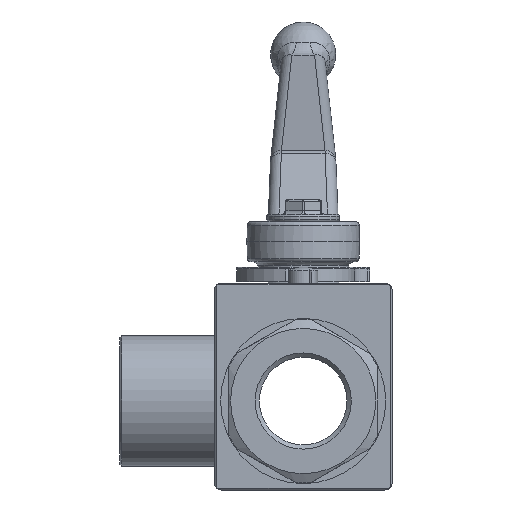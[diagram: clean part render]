
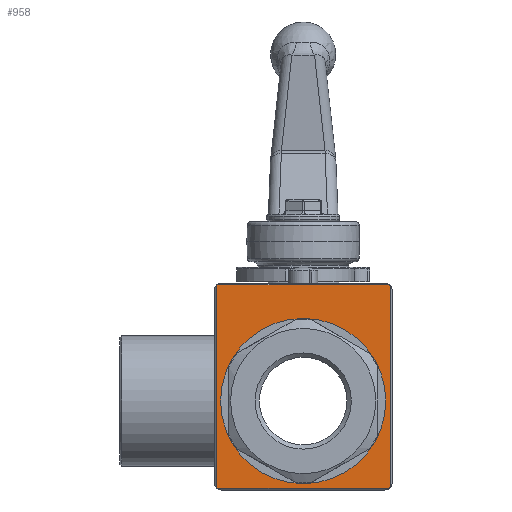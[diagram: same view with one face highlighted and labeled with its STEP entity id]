
A CAD part, front view. The second image highlights one B-rep face of the part: STEP entity #958.
In plain terms, the highlighted planar face has unit normal (0, -1, 0).
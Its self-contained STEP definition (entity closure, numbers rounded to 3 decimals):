
#958 = ADVANCED_FACE( '', ( #2012, #2013 ), #2014, .T. );
#2012 = FACE_OUTER_BOUND( '', #3770, .T. );
#2013 = FACE_BOUND( '', #3771, .T. );
#2014 = PLANE( '', #3772 );
#3770 = EDGE_LOOP( '', ( #6279, #6280, #6281, #6282, #6283, #6284, #6285, #6286 ) );
#3771 = EDGE_LOOP( '', ( #6287 ) );
#3772 = AXIS2_PLACEMENT_3D( '', #6288, #6289, #6290 );
#6279 = ORIENTED_EDGE( '', *, *, #8713, .T. );
#6280 = ORIENTED_EDGE( '', *, *, #7988, .T. );
#6281 = ORIENTED_EDGE( '', *, *, #8714, .T. );
#6282 = ORIENTED_EDGE( '', *, *, #8715, .T. );
#6283 = ORIENTED_EDGE( '', *, *, #8716, .T. );
#6284 = ORIENTED_EDGE( '', *, *, #8717, .T. );
#6285 = ORIENTED_EDGE( '', *, *, #8718, .T. );
#6286 = ORIENTED_EDGE( '', *, *, #8719, .T. );
#6287 = ORIENTED_EDGE( '', *, *, #8258, .F. );
#6288 = CARTESIAN_POINT( '', ( -24.5, -31.1, -24.5 ) );
#6289 = DIRECTION( '', ( 0., -1., 0. ) );
#6290 = DIRECTION( '', ( 0., 0., -1. ) );
#7988 = EDGE_CURVE( '', #9259, #9271, #9273, .T. );
#8258 = EDGE_CURVE( '', #9740, #9740, #9741, .T. );
#8713 = EDGE_CURVE( '', #10423, #9259, #10424, .T. );
#8714 = EDGE_CURVE( '', #9271, #10425, #10426, .T. );
#8715 = EDGE_CURVE( '', #10425, #10427, #10428, .T. );
#8716 = EDGE_CURVE( '', #10427, #10429, #10430, .T. );
#8717 = EDGE_CURVE( '', #10429, #10431, #10432, .T. );
#8718 = EDGE_CURVE( '', #10431, #10433, #10434, .T. );
#8719 = EDGE_CURVE( '', #10433, #10423, #10435, .T. );
#9259 = VERTEX_POINT( '', #11164 );
#9271 = VERTEX_POINT( '', #11178 );
#9273 = CIRCLE( '', #11180, 2. );
#9740 = VERTEX_POINT( '', #11926 );
#9741 = CIRCLE( '', #11927, 22.75 );
#10423 = VERTEX_POINT( '', #13404 );
#10424 = LINE( '', #13405, #13406 );
#10425 = VERTEX_POINT( '', #13407 );
#10426 = LINE( '', #13408, #13409 );
#10427 = VERTEX_POINT( '', #13410 );
#10428 = CIRCLE( '', #13411, 2. );
#10429 = VERTEX_POINT( '', #13412 );
#10430 = LINE( '', #13413, #13414 );
#10431 = VERTEX_POINT( '', #13415 );
#10432 = CIRCLE( '', #13416, 2. );
#10433 = VERTEX_POINT( '', #13417 );
#10434 = LINE( '', #13418, #13419 );
#10435 = CIRCLE( '', #13420, 2. );
#11164 = CARTESIAN_POINT( '', ( 23.823, -31.1, -24. ) );
#11178 = CARTESIAN_POINT( '', ( 24., -31.1, -23.823 ) );
#11180 = AXIS2_PLACEMENT_3D( '', #14502, #14503, #14504 );
#11926 = CARTESIAN_POINT( '', ( 22.75, -31.1, 0. ) );
#11927 = AXIS2_PLACEMENT_3D( '', #14918, #14919, #14920 );
#13404 = CARTESIAN_POINT( '', ( -23.823, -31.1, -24. ) );
#13405 = CARTESIAN_POINT( '', ( 24.5, -31.1, -24. ) );
#13406 = VECTOR( '', #15501, 1000. );
#13407 = CARTESIAN_POINT( '', ( 24., -31.1, 31.823 ) );
#13408 = CARTESIAN_POINT( '', ( 24., -31.1, 32.5 ) );
#13409 = VECTOR( '', #15502, 1000. );
#13410 = CARTESIAN_POINT( '', ( 23.823, -31.1, 32. ) );
#13411 = AXIS2_PLACEMENT_3D( '', #15503, #15504, #15505 );
#13412 = CARTESIAN_POINT( '', ( -23.823, -31.1, 32. ) );
#13413 = CARTESIAN_POINT( '', ( -24.5, -31.1, 32. ) );
#13414 = VECTOR( '', #15506, 1000. );
#13415 = CARTESIAN_POINT( '', ( -24., -31.1, 31.823 ) );
#13416 = AXIS2_PLACEMENT_3D( '', #15507, #15508, #15509 );
#13417 = CARTESIAN_POINT( '', ( -24., -31.1, -23.823 ) );
#13418 = CARTESIAN_POINT( '', ( -24., -31.1, -24.5 ) );
#13419 = VECTOR( '', #15510, 1000. );
#13420 = AXIS2_PLACEMENT_3D( '', #15511, #15512, #15513 );
#14502 = CARTESIAN_POINT( '', ( 22.5, -31.1, -22.5 ) );
#14503 = DIRECTION( '', ( 0., -1., 0. ) );
#14504 = DIRECTION( '', ( 0., 0., -1. ) );
#14918 = CARTESIAN_POINT( '', ( 0., -31.1, 0. ) );
#14919 = DIRECTION( '', ( 0., -1., 0. ) );
#14920 = DIRECTION( '', ( 1., 0., 0. ) );
#15501 = DIRECTION( '', ( 1., 0., 0. ) );
#15502 = DIRECTION( '', ( 0., 0., 1. ) );
#15503 = CARTESIAN_POINT( '', ( 22.5, -31.1, 30.5 ) );
#15504 = DIRECTION( '', ( 0., -1., 0. ) );
#15505 = DIRECTION( '', ( 0., 0., -1. ) );
#15506 = DIRECTION( '', ( -1., 0., 0. ) );
#15507 = CARTESIAN_POINT( '', ( -22.5, -31.1, 30.5 ) );
#15508 = DIRECTION( '', ( 0., -1., 0. ) );
#15509 = DIRECTION( '', ( 0., 0., -1. ) );
#15510 = DIRECTION( '', ( 0., 0., -1. ) );
#15511 = CARTESIAN_POINT( '', ( -22.5, -31.1, -22.5 ) );
#15512 = DIRECTION( '', ( 0., -1., 0. ) );
#15513 = DIRECTION( '', ( 0., 0., -1. ) );
